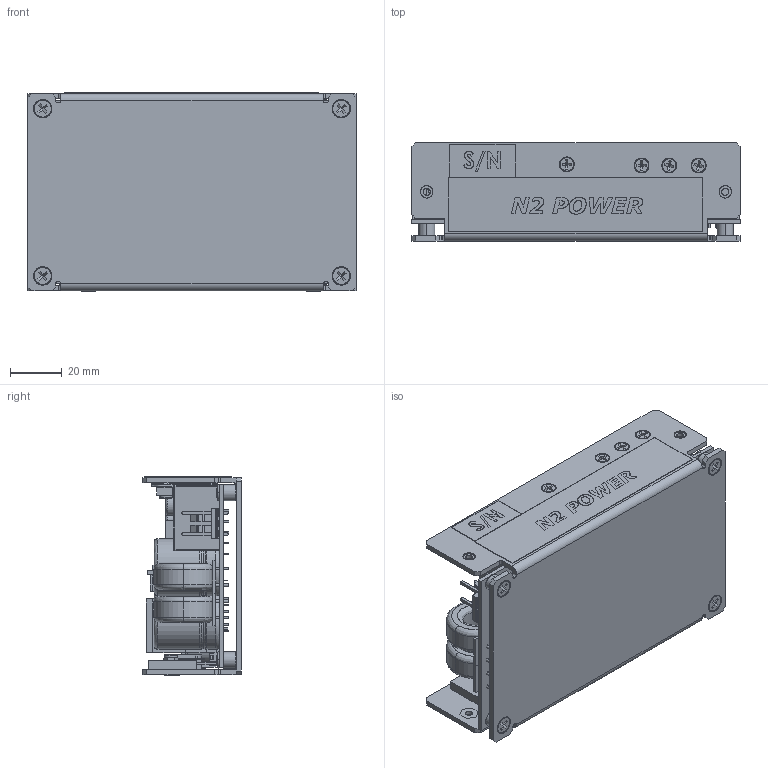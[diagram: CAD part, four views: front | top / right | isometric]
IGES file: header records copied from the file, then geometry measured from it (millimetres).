
Start section: SolidWorks IGES file using analytic representation for surfaces
Global section: file name: C:\Documents and Settings\scottshankle\WIP\!n2 power\XL275\XL275 Assy 061209 again2.IGS; native system: SolidWorks 2008; preprocessor: SolidWorks 2008; author: scottshankle; date: 090612.144401; units: inch
Bounding box: 127 x 38.11 x 76.68 mm (x, y, z)
Surface area: 110885.2 mm2 (no closed solid volume)
Topology: 0 solids, 0 shells, 3777 faces, 66675 edges, 85283 vertices
Faces by surface type: bspline 3149, revolution 628
